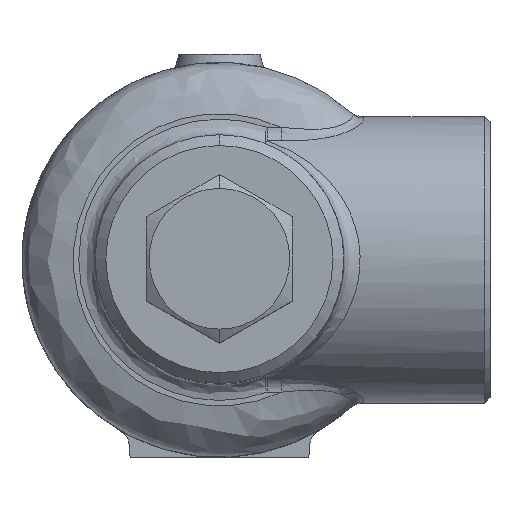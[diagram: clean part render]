
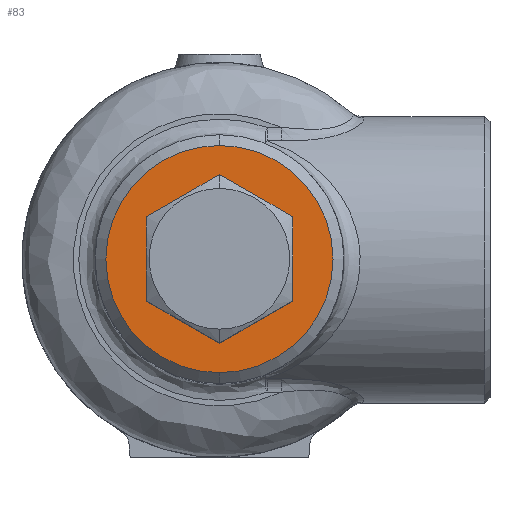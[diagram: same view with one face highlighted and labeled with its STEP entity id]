
A CAD part, top view. The second image highlights one B-rep face of the part: STEP entity #83.
In plain terms, the highlighted planar face has unit normal (0, 0, 1) as drawn and (0, 1, 0) by its records, which use the part's own axes.
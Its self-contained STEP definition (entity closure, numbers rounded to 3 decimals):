
#83=ADVANCED_FACE('',(#243,#244),#242,.T.);
#242=PLANE('',#1508);
#243=FACE_OUTER_BOUND('',#1509,.T.);
#244=FACE_BOUND('',#1510,.T.);
#1505=CARTESIAN_POINT('',(-43.648,87.,-48.3));
#1506=DIRECTION('',(0.,1.,0.));
#1507=DIRECTION('',(0.,0.,1.));
#1508=AXIS2_PLACEMENT_3D('',#1505,#1506,#1507);
#1509=EDGE_LOOP('',(#2345,#2346));
#1510=EDGE_LOOP('',(#2347,#2348,#2349,#2350,#2351,#2352));
#2345=ORIENTED_EDGE('',*,*,#2768,.T.);
#2346=ORIENTED_EDGE('',*,*,#2769,.T.);
#2347=ORIENTED_EDGE('',*,*,#2770,.F.);
#2348=ORIENTED_EDGE('',*,*,#2771,.F.);
#2349=ORIENTED_EDGE('',*,*,#2772,.F.);
#2350=ORIENTED_EDGE('',*,*,#2773,.F.);
#2351=ORIENTED_EDGE('',*,*,#2774,.F.);
#2352=ORIENTED_EDGE('',*,*,#2775,.F.);
#2768=EDGE_CURVE('',#3198,#3199,#3200,.T.);
#2769=EDGE_CURVE('',#3199,#3198,#3206,.T.);
#2770=EDGE_CURVE('',#3212,#3213,#3214,.T.);
#2771=EDGE_CURVE('',#3220,#3212,#3221,.T.);
#2772=EDGE_CURVE('',#3227,#3220,#3228,.T.);
#2773=EDGE_CURVE('',#3234,#3227,#3235,.T.);
#2774=EDGE_CURVE('',#3241,#3234,#3242,.T.);
#2775=EDGE_CURVE('',#3213,#3241,#3248,.T.);
#3198=VERTEX_POINT('',#4793);
#3199=VERTEX_POINT('',#4794);
#3200=CIRCLE('',#4798,21.);
#3206=CIRCLE('',#4802,21.);
#3212=VERTEX_POINT('',#4803);
#3213=VERTEX_POINT('',#4804);
#3214=LINE('',#4805,#4806);
#3220=VERTEX_POINT('',#4808);
#3221=LINE('',#4809,#4810);
#3227=VERTEX_POINT('',#4812);
#3228=LINE('',#4813,#4814);
#3234=VERTEX_POINT('',#4816);
#3235=LINE('',#4817,#4818);
#3241=VERTEX_POINT('',#4820);
#3242=LINE('',#4821,#4822);
#3248=LINE('',#4824,#4825);
#4793=CARTESIAN_POINT('',(0.,87.,21.));
#4794=CARTESIAN_POINT('',(0.,87.,-21.));
#4795=CARTESIAN_POINT('',(0.,87.,0.));
#4796=DIRECTION('',(0.,1.,0.));
#4797=DIRECTION('',(0.,0.,1.));
#4798=AXIS2_PLACEMENT_3D('',#4795,#4796,#4797);
#4799=CARTESIAN_POINT('',(0.,87.,0.));
#4800=DIRECTION('',(0.,1.,0.));
#4801=DIRECTION('',(0.,0.,1.));
#4802=AXIS2_PLACEMENT_3D('',#4799,#4800,#4801);
#4803=CARTESIAN_POINT('',(13.5,87.,7.794));
#4804=CARTESIAN_POINT('',(13.5,87.,-7.794));
#4805=CARTESIAN_POINT('',(13.5,87.,7.794));
#4806=VECTOR('',#4807,15.588);
#4807=DIRECTION('',(0.,0.,-1.));
#4808=CARTESIAN_POINT('',(0.,87.,15.588));
#4809=CARTESIAN_POINT('',(0.,87.,15.588));
#4810=VECTOR('',#4811,15.588);
#4811=DIRECTION('',(0.866,0.,-0.5));
#4812=CARTESIAN_POINT('',(-13.5,87.,7.794));
#4813=CARTESIAN_POINT('',(-13.5,87.,7.794));
#4814=VECTOR('',#4815,15.588);
#4815=DIRECTION('',(0.866,0.,0.5));
#4816=CARTESIAN_POINT('',(-13.5,87.,-7.794));
#4817=CARTESIAN_POINT('',(-13.5,87.,-7.794));
#4818=VECTOR('',#4819,15.588);
#4819=DIRECTION('',(0.,0.,1.));
#4820=CARTESIAN_POINT('',(0.,87.,-15.588));
#4821=CARTESIAN_POINT('',(0.,87.,-15.588));
#4822=VECTOR('',#4823,15.588);
#4823=DIRECTION('',(-0.866,0.,0.5));
#4824=CARTESIAN_POINT('',(13.5,87.,-7.794));
#4825=VECTOR('',#4826,15.588);
#4826=DIRECTION('',(-0.866,0.,-0.5));
